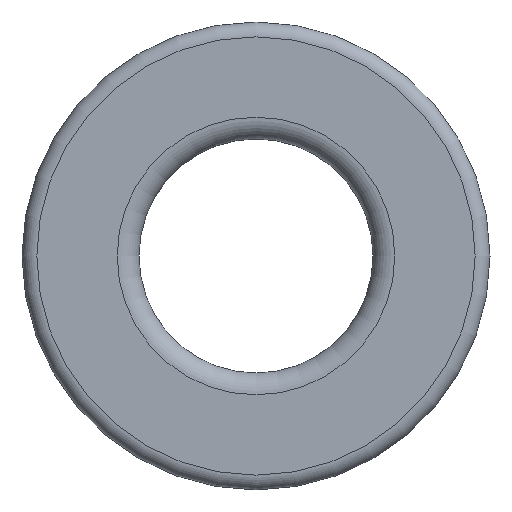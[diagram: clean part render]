
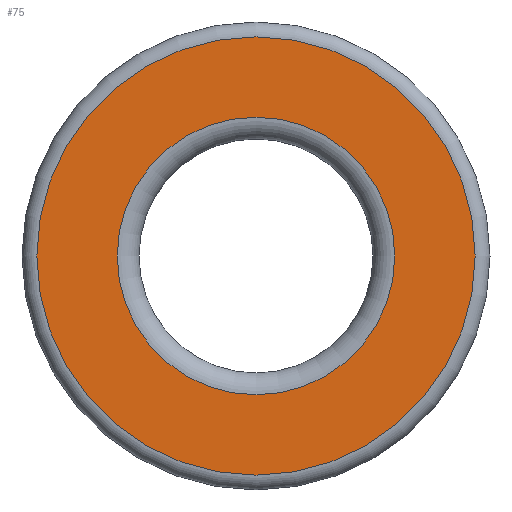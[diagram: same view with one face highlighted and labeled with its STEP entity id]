
A CAD part, left-side view. The second image highlights one B-rep face of the part: STEP entity #75.
In plain terms, the highlighted planar face has unit normal (-1, 0, 0).
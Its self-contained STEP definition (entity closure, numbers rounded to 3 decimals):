
#75=ADVANCED_FACE('',(#100,#101),#102,.F.);
#100=FACE_BOUND('',#172,.T.);
#101=FACE_OUTER_BOUND('',#173,.T.);
#102=PLANE('',#174);
#172=EDGE_LOOP('',(#244));
#173=EDGE_LOOP('',(#245));
#174=AXIS2_PLACEMENT_3D('',#246,#247,#248);
#244=ORIENTED_EDGE('',*,*,#364,.F.);
#245=ORIENTED_EDGE('',*,*,#365,.T.);
#246=CARTESIAN_POINT('',(0.0,5.619,0.0));
#247=DIRECTION('',(1.0,0.0,0.0));
#248=DIRECTION('',(0.0,0.0,-1.0));
#364=EDGE_CURVE('',#388,#388,#389,.T.);
#365=EDGE_CURVE('',#390,#390,#391,.T.);
#388=VERTEX_POINT('',#436);
#389=CIRCLE('',#437,3.558);
#390=VERTEX_POINT('',#438);
#391=CIRCLE('',#439,5.619);
#436=CARTESIAN_POINT('',(0.0,0.0,3.558));
#437=AXIS2_PLACEMENT_3D('',#484,#485,#486);
#438=CARTESIAN_POINT('',(0.0,0.0,5.619));
#439=AXIS2_PLACEMENT_3D('',#487,#488,#489);
#484=CARTESIAN_POINT('',(0.0,0.0,0.0));
#485=DIRECTION('',(-1.0,0.0,0.0));
#486=DIRECTION('',(0.0,0.0,1.0));
#487=CARTESIAN_POINT('',(0.0,0.0,0.0));
#488=DIRECTION('',(-1.0,0.0,0.0));
#489=DIRECTION('',(0.0,0.0,1.0));
